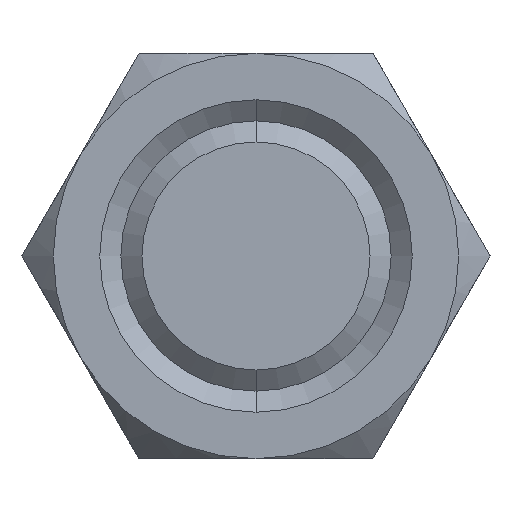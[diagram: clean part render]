
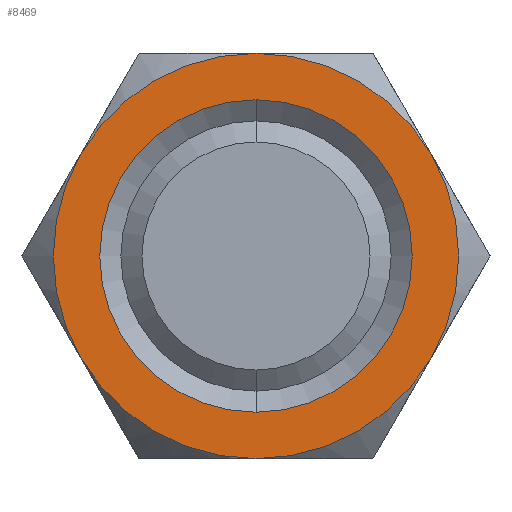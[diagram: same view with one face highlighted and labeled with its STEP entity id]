
A CAD part, front view. The second image highlights one B-rep face of the part: STEP entity #8469.
In plain terms, the highlighted planar face has unit normal (0, -1, 0).
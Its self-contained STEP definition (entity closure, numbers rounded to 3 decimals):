
#8342 = ORIENTED_EDGE ( 'NONE', *, *, #8435, .F. ) ;
#8420 = EDGE_LOOP ( 'NONE', ( #8424, #8426 ) ) ;
#8424 = ORIENTED_EDGE ( 'NONE', *, *, #8425, .F. ) ;
#8425 = EDGE_CURVE ( 'NONE', #8525, #8522, #13834, .T. ) ;
#8426 = ORIENTED_EDGE ( 'NONE', *, *, #8524, .F. ) ;
#8435 = EDGE_CURVE ( 'NONE', #8574, #8482, #14029, .T. ) ;
#8469 = ADVANCED_FACE ( 'NONE', ( #13964, #13963 ), #13962, .F. ) ;
#8470 = EDGE_LOOP ( 'NONE', ( #8571, #8521, #8474, #8477, #8480, #8342 ) ) ;
#8474 = ORIENTED_EDGE ( 'NONE', *, *, #8475, .F. ) ;
#8475 = EDGE_CURVE ( 'NONE', #8476, #8484, #14014, .T. ) ;
#8476 = VERTEX_POINT ( 'NONE', #14010 ) ;
#8477 = ORIENTED_EDGE ( 'NONE', *, *, #8478, .F. ) ;
#8478 = EDGE_CURVE ( 'NONE', #8479, #8476, #14009, .T. ) ;
#8479 = VERTEX_POINT ( 'NONE', #14004 ) ;
#8480 = ORIENTED_EDGE ( 'NONE', *, *, #8481, .T. ) ;
#8481 = EDGE_CURVE ( 'NONE', #8479, #8482, #14003, .T. ) ;
#8482 = VERTEX_POINT ( 'NONE', #13998 ) ;
#8483 = EDGE_CURVE ( 'NONE', #8484, #8573, #13997, .T. ) ;
#8484 = VERTEX_POINT ( 'NONE', #13992 ) ;
#8521 = ORIENTED_EDGE ( 'NONE', *, *, #8483, .F. ) ;
#8522 = VERTEX_POINT ( 'NONE', #14126 ) ;
#8524 = EDGE_CURVE ( 'NONE', #8522, #8525, #14130, .T. ) ;
#8525 = VERTEX_POINT ( 'NONE', #14131 ) ;
#8571 = ORIENTED_EDGE ( 'NONE', *, *, #8572, .F. ) ;
#8572 = EDGE_CURVE ( 'NONE', #8573, #8574, #14190, .T. ) ;
#8573 = VERTEX_POINT ( 'NONE', #14191 ) ;
#8574 = VERTEX_POINT ( 'NONE', #14173 ) ;
#13834 = CIRCLE ( 'NONE', #14039, 9.249 ) ;
#13953 = CARTESIAN_POINT ( 'NONE',  ( 0., 0., 0. ) ) ;
#13957 = DIRECTION ( 'NONE',  ( 0., 0., 1. ) ) ;
#13958 = DIRECTION ( 'NONE',  ( 0., 1., 0. ) ) ;
#13959 = CARTESIAN_POINT ( 'NONE',  ( 13.856, 0., 0. ) ) ;
#13961 = AXIS2_PLACEMENT_3D ( 'NONE', #13959, #13958, #13957 ) ;
#13962 = PLANE ( 'NONE',  #13961 ) ;
#13963 = FACE_BOUND ( 'NONE', #8420, .T. ) ;
#13964 = FACE_OUTER_BOUND ( 'NONE', #8470, .T. ) ;
#13992 = CARTESIAN_POINT ( 'NONE',  ( -10.392, 0., 6. ) ) ;
#13993 = DIRECTION ( 'NONE',  ( 0., 0., 1. ) ) ;
#13994 = DIRECTION ( 'NONE',  ( 0., 1., 0. ) ) ;
#13995 = CARTESIAN_POINT ( 'NONE',  ( 0., 0., 0. ) ) ;
#13996 = AXIS2_PLACEMENT_3D ( 'NONE', #13995, #13994, #13993 ) ;
#13997 = CIRCLE ( 'NONE', #13996, 12. ) ;
#13998 = CARTESIAN_POINT ( 'NONE',  ( 10.392, 0., -6. ) ) ;
#13999 = DIRECTION ( 'NONE',  ( 0., 0., -1. ) ) ;
#14000 = DIRECTION ( 'NONE',  ( 0., -1., 0. ) ) ;
#14001 = CARTESIAN_POINT ( 'NONE',  ( 0., 0., 0. ) ) ;
#14002 = AXIS2_PLACEMENT_3D ( 'NONE', #14001, #14000, #13999 ) ;
#14003 = CIRCLE ( 'NONE', #14002, 12. ) ;
#14004 = CARTESIAN_POINT ( 'NONE',  ( 0., 0., -12. ) ) ;
#14005 = DIRECTION ( 'NONE',  ( 0., 0., 1. ) ) ;
#14006 = DIRECTION ( 'NONE',  ( 0., 1., 0. ) ) ;
#14007 = CARTESIAN_POINT ( 'NONE',  ( 0., 0., 0. ) ) ;
#14008 = AXIS2_PLACEMENT_3D ( 'NONE', #14007, #14006, #14005 ) ;
#14009 = CIRCLE ( 'NONE', #14008, 12. ) ;
#14010 = CARTESIAN_POINT ( 'NONE',  ( -10.392, 0., -6. ) ) ;
#14011 = DIRECTION ( 'NONE',  ( 0., 0., 1. ) ) ;
#14012 = DIRECTION ( 'NONE',  ( 0., 1., 0. ) ) ;
#14013 = AXIS2_PLACEMENT_3D ( 'NONE', #13953, #14012, #14011 ) ;
#14014 = CIRCLE ( 'NONE', #14013, 12. ) ;
#14025 = DIRECTION ( 'NONE',  ( 0., 0., 1. ) ) ;
#14026 = DIRECTION ( 'NONE',  ( 0., 1., 0. ) ) ;
#14027 = CARTESIAN_POINT ( 'NONE',  ( 0., 0., 0. ) ) ;
#14028 = AXIS2_PLACEMENT_3D ( 'NONE', #14027, #14026, #14025 ) ;
#14029 = CIRCLE ( 'NONE', #14028, 12. ) ;
#14036 = DIRECTION ( 'NONE',  ( 0., 0., -1. ) ) ;
#14037 = DIRECTION ( 'NONE',  ( 0., -1., 0. ) ) ;
#14038 = CARTESIAN_POINT ( 'NONE',  ( 0., 0., 0. ) ) ;
#14039 = AXIS2_PLACEMENT_3D ( 'NONE', #14038, #14037, #14036 ) ;
#14126 = CARTESIAN_POINT ( 'NONE',  ( 0., 0., 9.249 ) ) ;
#14127 = DIRECTION ( 'NONE',  ( 0., -1., 0. ) ) ;
#14128 = CARTESIAN_POINT ( 'NONE',  ( 0., 0., 0. ) ) ;
#14129 = AXIS2_PLACEMENT_3D ( 'NONE', #14128, #14127, #14142 ) ;
#14130 = CIRCLE ( 'NONE', #14129, 9.249 ) ;
#14131 = CARTESIAN_POINT ( 'NONE',  ( 0., 0., -9.249 ) ) ;
#14142 = DIRECTION ( 'NONE',  ( 0., 0., -1. ) ) ;
#14173 = CARTESIAN_POINT ( 'NONE',  ( 10.392, 0., 6. ) ) ;
#14186 = DIRECTION ( 'NONE',  ( 0., 0., 1. ) ) ;
#14187 = DIRECTION ( 'NONE',  ( 0., 1., 0. ) ) ;
#14188 = CARTESIAN_POINT ( 'NONE',  ( 0., 0., 0. ) ) ;
#14189 = AXIS2_PLACEMENT_3D ( 'NONE', #14188, #14187, #14186 ) ;
#14190 = CIRCLE ( 'NONE', #14189, 12. ) ;
#14191 = CARTESIAN_POINT ( 'NONE',  ( 0., 0., 12. ) ) ;
